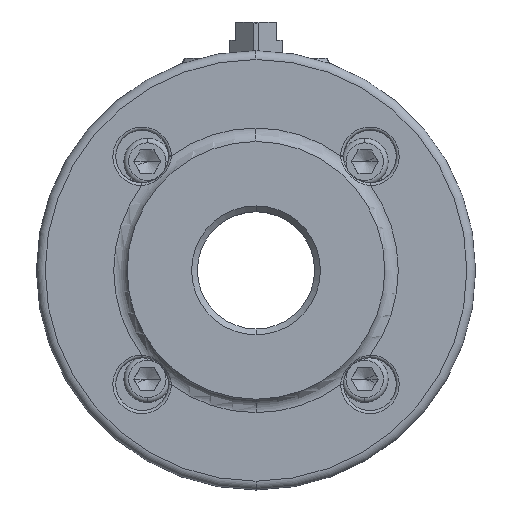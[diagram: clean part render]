
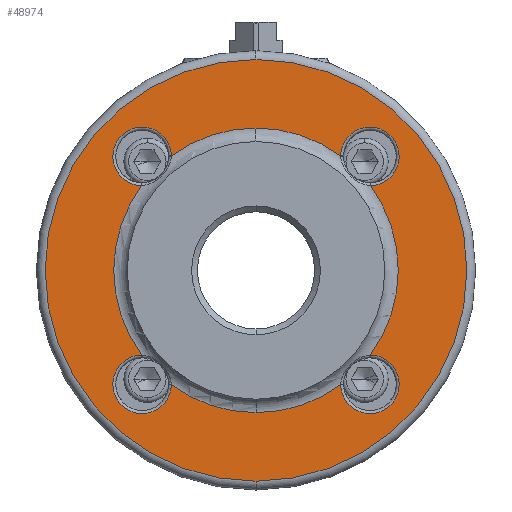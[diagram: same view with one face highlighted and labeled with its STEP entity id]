
A CAD part, left-side view. The second image highlights one B-rep face of the part: STEP entity #48974.
In plain terms, the highlighted planar face has unit normal (-1, 0, 0).
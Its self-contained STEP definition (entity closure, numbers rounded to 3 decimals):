
#9250=CARTESIAN_POINT('',(-47.,0.,0.));
#9251=DIRECTION('',(1.,0.,0.));
#9252=DIRECTION('',(0.,0.,1.));
#9253=AXIS2_PLACEMENT_3D('',#9250,#9251,#9252);
#9265=CARTESIAN_POINT('',(-47.,0.,0.));
#9266=DIRECTION('',(1.,0.,0.));
#9267=DIRECTION('',(0.,0.,-1.));
#9268=AXIS2_PLACEMENT_3D('',#9265,#9266,#9267);
#9283=CARTESIAN_POINT('',(-47.,0.,0.));
#9284=DIRECTION('',(1.,0.,0.));
#9285=DIRECTION('',(0.,0.804,-0.595));
#9286=AXIS2_PLACEMENT_3D('',#9283,#9284,#9285);
#9288=CARTESIAN_POINT('',(-47.,0.,0.));
#9289=DIRECTION('',(1.,0.,0.));
#9290=DIRECTION('',(0.,0.,-1.));
#9291=AXIS2_PLACEMENT_3D('',#9288,#9289,#9290);
#9293=CARTESIAN_POINT('',(-47.,0.,0.));
#9294=DIRECTION('',(-1.,0.,0.));
#9295=DIRECTION('',(0.,0.,-1.));
#9296=AXIS2_PLACEMENT_3D('',#9293,#9294,#9295);
#9298=CARTESIAN_POINT('',(-47.,0.,0.));
#9299=DIRECTION('',(-1.,0.,0.));
#9300=DIRECTION('',(0.,-0.804,-0.595));
#9301=AXIS2_PLACEMENT_3D('',#9298,#9299,#9300);
#9303=CARTESIAN_POINT('',(-47.,0.,0.));
#9304=DIRECTION('',(-1.,0.,0.));
#9305=DIRECTION('',(0.,-0.595,0.804));
#9306=AXIS2_PLACEMENT_3D('',#9303,#9304,#9305);
#9308=CARTESIAN_POINT('',(-47.,0.,0.));
#9309=DIRECTION('',(1.,0.,0.));
#9310=DIRECTION('',(0.,0.595,0.804));
#9311=AXIS2_PLACEMENT_3D('',#9308,#9309,#9310);
#9313=CARTESIAN_POINT('',(-47.,38.891,38.891));
#9314=DIRECTION('',(1.,0.,0.));
#9315=DIRECTION('',(0.,0.017,-1.));
#9316=AXIS2_PLACEMENT_3D('',#9313,#9314,#9315);
#9333=CARTESIAN_POINT('',(-47.,28.892,39.058));
#9387=CARTESIAN_POINT('',(-47.,-28.892,
39.058));
#9401=CARTESIAN_POINT('',(-47.,-38.891,38.891));
#9402=DIRECTION('',(1.,0.,0.));
#9403=DIRECTION('',(0.,1.,0.017));
#9404=AXIS2_PLACEMENT_3D('',#9401,#9402,#9403);
#9421=CARTESIAN_POINT('',(-47.,-39.058,
28.892));
#9583=CARTESIAN_POINT('',(-47.,-39.058,
-28.892));
#9646=CARTESIAN_POINT('',(-47.,-38.891,-38.891));
#9647=DIRECTION('',(1.,0.,0.));
#9648=DIRECTION('',(0.,-0.017,1.));
#9649=AXIS2_PLACEMENT_3D('',#9646,#9647,#9648);
#9655=CARTESIAN_POINT('',(-47.,-28.892,
-39.058));
#12904=CARTESIAN_POINT('',(-47.,28.892,
-39.058));
#12918=CARTESIAN_POINT('',(-47.,38.891,-38.891));
#12919=DIRECTION('',(1.,0.,0.));
#12920=DIRECTION('',(0.,-1.,-0.017));
#12921=AXIS2_PLACEMENT_3D('',#12918,#12919,#12920);
#12938=CARTESIAN_POINT('',(-47.,39.058,
-28.892));
#13100=CARTESIAN_POINT('',(-47.,39.058,
28.892));
#29133=CARTESIAN_POINT('',(-47.,0.,-72.));
#29134=CARTESIAN_POINT('',(-47.,0.,72.));
#29135=VERTEX_POINT('',#29133);
#29136=VERTEX_POINT('',#29134);
#30581=VERTEX_POINT('',#9333);
#30584=VERTEX_POINT('',#13100);
#30598=VERTEX_POINT('',#9421);
#30601=VERTEX_POINT('',#9387);
#30611=VERTEX_POINT('',#9655);
#30615=VERTEX_POINT('',#9583);
#30631=VERTEX_POINT('',#12938);
#30634=VERTEX_POINT('',#12904);
#30644=CARTESIAN_POINT('',(-47.,0.,48.583));
#30645=VERTEX_POINT('',#30644);
#30646=CARTESIAN_POINT('',(-47.,0.,-48.583));
#30647=VERTEX_POINT('',#30646);
#48943=CARTESIAN_POINT('',(-47.,0.,0.));
#48944=DIRECTION('',(-1.,0.,0.));
#48945=DIRECTION('',(0.,0.,1.));
#48946=AXIS2_PLACEMENT_3D('',#48943,#48944,#48945);
#48947=PLANE('',#48946);
#48948=ORIENTED_EDGE('',*,*,#48925,.T.);
#48949=ORIENTED_EDGE('',*,*,#48910,.T.);
#48950=EDGE_LOOP('',(#48948,#48949));
#48951=FACE_OUTER_BOUND('',#48950,.F.);
#48953=ORIENTED_EDGE('',*,*,#48952,.F.);
#48955=ORIENTED_EDGE('',*,*,#48954,.F.);
#48957=ORIENTED_EDGE('',*,*,#48956,.F.);
#48959=ORIENTED_EDGE('',*,*,#48958,.F.);
#48961=ORIENTED_EDGE('',*,*,#48960,.T.);
#48963=ORIENTED_EDGE('',*,*,#48962,.F.);
#48965=ORIENTED_EDGE('',*,*,#48964,.T.);
#48967=ORIENTED_EDGE('',*,*,#48966,.F.);
#48969=ORIENTED_EDGE('',*,*,#48968,.T.);
#48971=ORIENTED_EDGE('',*,*,#48970,.F.);
#48972=EDGE_LOOP('',(#48953,#48955,#48957,#48959,#48961,#48963,#48965,#48967,
#48969,#48971));
#48973=FACE_BOUND('',#48972,.F.);
#9254=CIRCLE('',#9253,72.);
#9269=CIRCLE('',#9268,72.);
#9287=CIRCLE('',#9286,48.583);
#9292=CIRCLE('',#9291,48.583);
#9297=CIRCLE('',#9296,48.583);
#9302=CIRCLE('',#9301,48.583);
#9307=CIRCLE('',#9306,48.583);
#9312=CIRCLE('',#9311,48.583);
#9317=CIRCLE('',#9316,10.);
#9405=CIRCLE('',#9404,10.);
#9650=CIRCLE('',#9649,10.);
#12922=CIRCLE('',#12921,10.);
#48910=EDGE_CURVE('',#29136,#29135,#9254,.T.);
#48925=EDGE_CURVE('',#29135,#29136,#9269,.T.);
#48952=EDGE_CURVE('',#30584,#30581,#9317,.T.);
#48954=EDGE_CURVE('',#30631,#30584,#9287,.T.);
#48956=EDGE_CURVE('',#30634,#30631,#12922,.T.);
#48958=EDGE_CURVE('',#30647,#30634,#9292,.T.);
#48960=EDGE_CURVE('',#30647,#30611,#9297,.T.);
#48962=EDGE_CURVE('',#30615,#30611,#9650,.T.);
#48964=EDGE_CURVE('',#30615,#30598,#9302,.T.);
#48966=EDGE_CURVE('',#30601,#30598,#9405,.T.);
#48968=EDGE_CURVE('',#30601,#30645,#9307,.T.);
#48970=EDGE_CURVE('',#30581,#30645,#9312,.T.);
#48974=ADVANCED_FACE('',(#48951,#48973),#48947,.T.);
